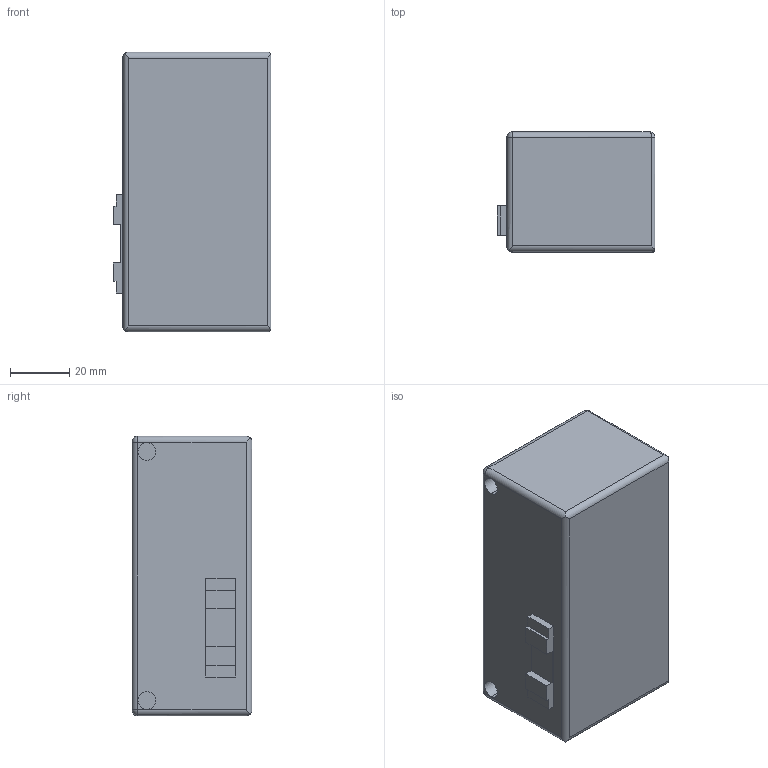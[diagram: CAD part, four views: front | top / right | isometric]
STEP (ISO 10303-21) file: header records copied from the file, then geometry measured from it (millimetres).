
FILE_DESCRIPTION( (''), '2;1');
FILE_NAME ('CVICAD32.25716.YS6H1_10884.stp','2020-09-09T09:21:15',(''),(''),'spGate 12.6.6','','');
FILE_SCHEMA (('AUTOMOTIVE_DESIGN'));
Length unit declared in the file: millimetre
Bounding box: 53.3 x 40.5 x 94.4 mm (x, y, z)
Volume: 189247.4 mm3; surface area: 22224.4 mm2
Topology: 1 solids, 1 shells, 41 faces, 104 edges, 62 vertices
Faces by surface type: plane 21, cylinder 16, bspline 2, sphere 2
Entity records: 2187 total; most frequent: CARTESIAN_POINT 433, ORIENTED_EDGE 200, DIRECTION 176, COLOUR_RGB 142, PRESENTATION_STYLE_ASSIGNMENT 142, STYLED_ITEM 142, EDGE_CURVE 100, DRAUGHTING_PRE_DEFINED_CURVE_FONT 100
